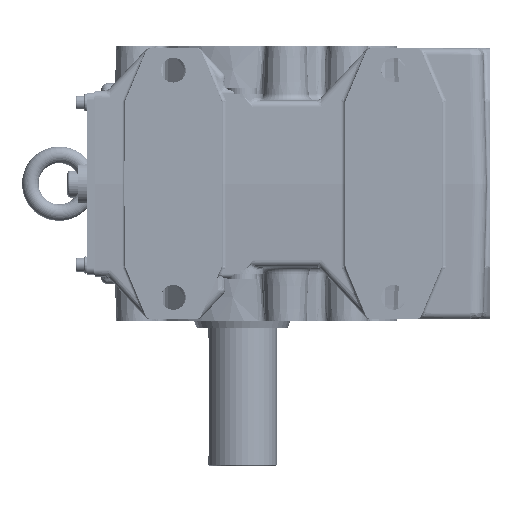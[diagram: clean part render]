
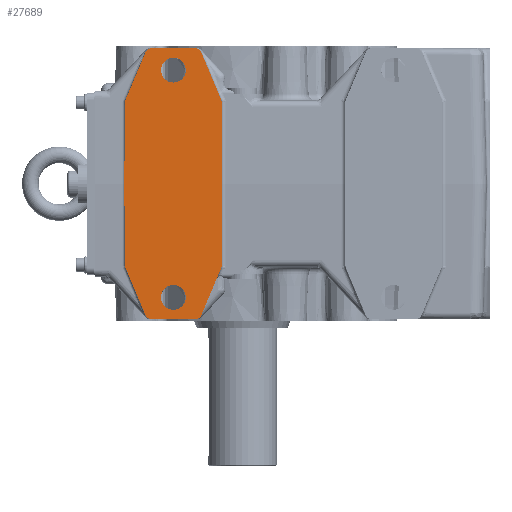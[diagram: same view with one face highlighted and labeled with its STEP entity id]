
A CAD part, left-side view. The second image highlights one B-rep face of the part: STEP entity #27689.
In plain terms, the highlighted planar face has unit normal (-1, 0, 0).
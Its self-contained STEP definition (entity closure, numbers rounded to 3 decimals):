
#27438=CARTESIAN_POINT('',(-112.,50.0,-73.5));
#27439=VERTEX_POINT('',#27438);
#27440=CARTESIAN_POINT('',(-112.,50.0,-82.5));
#27441=DIRECTION('',(1.0,0.0,0.0));
#27442=DIRECTION('',(0.0,0.0,1.0));
#27443=AXIS2_PLACEMENT_3D('',#27440,#27441,#27442);
#27444=CIRCLE('',#27443,9.0);
#27445=EDGE_CURVE('',#27439,#27439,#27444,.T.);
#27466=CARTESIAN_POINT('',(-112.,50.,91.5));
#27467=VERTEX_POINT('',#27466);
#27468=CARTESIAN_POINT('',(-112.,50.,82.5));
#27469=DIRECTION('',(1.0,0.0,0.0));
#27470=DIRECTION('',(0.0,0.0,1.0));
#27471=AXIS2_PLACEMENT_3D('',#27468,#27469,#27470);
#27472=CIRCLE('',#27471,9.0);
#27473=EDGE_CURVE('',#27467,#27467,#27472,.T.);
#27506=CARTESIAN_POINT('',(-112.,-29.479,11.268));
#27507=DIRECTION('',(1.0,0.0,0.0));
#27508=DIRECTION('',(0.0,0.0,-1.0));
#27509=AXIS2_PLACEMENT_3D('',#27506,#27507,#27508);
#27510=PLANE('',#27509);
#27511=CARTESIAN_POINT('',(-112.,85.011,-59.485));
#27512=VERTEX_POINT('',#27511);
#27513=CARTESIAN_POINT('',(-112.,86.064,0.));
#27514=VERTEX_POINT('',#27513);
#27515=CARTESIAN_POINT('',(-112.,87.0,-67.526));
#27516=DIRECTION('',(-1.0,0.0,0.0));
#27517=DIRECTION('',(0.0,0.0,1.0));
#27518=AXIS2_PLACEMENT_3D('',#27515,#27516,#27517);
#27519=ELLIPSE('',#27518,76.403,2.0);
#27520=EDGE_CURVE('',#27512,#27514,#27519,.T.);
#27521=ORIENTED_EDGE('',*,*,#27520,.F.);
#27522=CARTESIAN_POINT('',(-112.,84.614,-61.429));
#27523=VERTEX_POINT('',#27522);
#27524=CARTESIAN_POINT('',(-112.,84.614,-61.429));
#27525=CARTESIAN_POINT('',(-112.,84.744,-61.122));
#27526=CARTESIAN_POINT('',(-112.,84.843,-60.803));
#27527=CARTESIAN_POINT('',(-112.,84.909,-60.477));
#27528=CARTESIAN_POINT('',(-112.,84.976,-60.15));
#27529=CARTESIAN_POINT('',(-112.,85.01,-59.818));
#27530=CARTESIAN_POINT('',(-112.,85.011,-59.485));
#27531=B_SPLINE_CURVE_WITH_KNOTS('',3,(#27524,#27525,#27526,#27527,#27528,#27529,#27530),.UNSPECIFIED.,.F.,.U.,(4,3,4),(-0.2,-0.1,0.0),.UNSPECIFIED.);
#27532=EDGE_CURVE('',#27523,#27512,#27531,.T.);
#27533=ORIENTED_EDGE('',*,*,#27532,.F.);
#27534=CARTESIAN_POINT('',(-112.,82.368,-66.75));
#27535=VERTEX_POINT('',#27534);
#27536=CARTESIAN_POINT('',(-112.,84.212,-67.526));
#27537=DIRECTION('',(-1.0,0.0,0.0));
#27538=DIRECTION('',(0.0,0.388,0.922));
#27539=AXIS2_PLACEMENT_3D('',#27536,#27537,#27538);
#27540=ELLIPSE('',#27539,82.895,2.0);
#27541=EDGE_CURVE('',#27535,#27523,#27540,.T.);
#27542=ORIENTED_EDGE('',*,*,#27541,.F.);
#27543=CARTESIAN_POINT('',(-112.,70.288,-95.44));
#27544=VERTEX_POINT('',#27543);
#27545=CARTESIAN_POINT('',(-112.0,70.288,-95.44));
#27546=DIRECTION('',(0.0,0.388,0.922));
#27547=VECTOR('',#27546,31.13);
#27548=LINE('',#27545,#27547);
#27549=EDGE_CURVE('',#27544,#27535,#27548,.T.);
#27550=ORIENTED_EDGE('',*,*,#27549,.F.);
#27551=CARTESIAN_POINT('',(-112.,65.68,-98.5));
#27552=VERTEX_POINT('',#27551);
#27553=CARTESIAN_POINT('',(-112.,65.68,-93.5));
#27554=DIRECTION('',(1.0,0.0,0.0));
#27555=DIRECTION('',(0.0,0.0,-1.0));
#27556=AXIS2_PLACEMENT_3D('',#27553,#27554,#27555);
#27557=CIRCLE('',#27556,5.0);
#27558=EDGE_CURVE('',#27552,#27544,#27557,.T.);
#27559=ORIENTED_EDGE('',*,*,#27558,.F.);
#27560=CARTESIAN_POINT('',(-112.,34.32,-98.5));
#27561=VERTEX_POINT('',#27560);
#27562=CARTESIAN_POINT('',(-112.,34.32,-98.5));
#27563=DIRECTION('',(0.0,1.0,0.0));
#27564=VECTOR('',#27563,31.36);
#27565=LINE('',#27562,#27564);
#27566=EDGE_CURVE('',#27561,#27552,#27565,.T.);
#27567=ORIENTED_EDGE('',*,*,#27566,.F.);
#27568=CARTESIAN_POINT('',(-112.,29.712,-95.44));
#27569=VERTEX_POINT('',#27568);
#27570=CARTESIAN_POINT('',(-112.,34.32,-93.5));
#27571=DIRECTION('',(1.0,0.0,0.0));
#27572=DIRECTION('',(0.0,0.0,-1.0));
#27573=AXIS2_PLACEMENT_3D('',#27570,#27571,#27572);
#27574=CIRCLE('',#27573,5.0);
#27575=EDGE_CURVE('',#27569,#27561,#27574,.T.);
#27576=ORIENTED_EDGE('',*,*,#27575,.F.);
#27577=CARTESIAN_POINT('',(-112.,15.392,-61.431));
#27578=VERTEX_POINT('',#27577);
#27579=CARTESIAN_POINT('',(-112.,15.392,-61.431));
#27580=DIRECTION('',(0.0,0.388,-0.922));
#27581=VECTOR('',#27580,36.901);
#27582=LINE('',#27579,#27581);
#27583=EDGE_CURVE('',#27578,#27569,#27582,.T.);
#27584=ORIENTED_EDGE('',*,*,#27583,.F.);
#27585=CARTESIAN_POINT('',(-112.,15.0,-59.49));
#27586=VERTEX_POINT('',#27585);
#27587=CARTESIAN_POINT('',(-112.,20.0,-59.49));
#27588=DIRECTION('',(1.0,0.0,0.0));
#27589=DIRECTION('',(0.0,-0.98,-0.198));
#27590=AXIS2_PLACEMENT_3D('',#27587,#27588,#27589);
#27591=CIRCLE('',#27590,5.0);
#27592=EDGE_CURVE('',#27586,#27578,#27591,.T.);
#27593=ORIENTED_EDGE('',*,*,#27592,.F.);
#27594=CARTESIAN_POINT('',(-112.,15.0,59.49));
#27595=VERTEX_POINT('',#27594);
#27596=CARTESIAN_POINT('',(-112.,15.0,59.49));
#27597=DIRECTION('',(0.0,0.0,-1.0));
#27598=VECTOR('',#27597,118.981);
#27599=LINE('',#27596,#27598);
#27600=EDGE_CURVE('',#27595,#27586,#27599,.T.);
#27601=ORIENTED_EDGE('',*,*,#27600,.F.);
#27602=CARTESIAN_POINT('',(-112.,15.392,61.431));
#27603=VERTEX_POINT('',#27602);
#27604=CARTESIAN_POINT('',(-112.,20.0,59.49));
#27605=DIRECTION('',(1.0,0.0,0.0));
#27606=DIRECTION('',(0.0,-0.98,0.198));
#27607=AXIS2_PLACEMENT_3D('',#27604,#27605,#27606);
#27608=CIRCLE('',#27607,5.);
#27609=EDGE_CURVE('',#27603,#27595,#27608,.T.);
#27610=ORIENTED_EDGE('',*,*,#27609,.F.);
#27611=CARTESIAN_POINT('',(-112.,29.712,95.44));
#27612=VERTEX_POINT('',#27611);
#27613=CARTESIAN_POINT('',(-112.,29.712,95.44));
#27614=DIRECTION('',(0.0,-0.388,-0.922));
#27615=VECTOR('',#27614,36.901);
#27616=LINE('',#27613,#27615);
#27617=EDGE_CURVE('',#27612,#27603,#27616,.T.);
#27618=ORIENTED_EDGE('',*,*,#27617,.F.);
#27619=CARTESIAN_POINT('',(-112.,34.32,98.5));
#27620=VERTEX_POINT('',#27619);
#27621=CARTESIAN_POINT('',(-112.,34.32,93.5));
#27622=DIRECTION('',(1.0,0.0,0.0));
#27623=DIRECTION('',(0.0,0.0,1.0));
#27624=AXIS2_PLACEMENT_3D('',#27621,#27622,#27623);
#27625=CIRCLE('',#27624,5.0);
#27626=EDGE_CURVE('',#27620,#27612,#27625,.T.);
#27627=ORIENTED_EDGE('',*,*,#27626,.F.);
#27628=CARTESIAN_POINT('',(-112.,65.68,98.5));
#27629=VERTEX_POINT('',#27628);
#27630=CARTESIAN_POINT('',(-112.,65.68,98.5));
#27631=DIRECTION('',(0.0,-1.0,0.0));
#27632=VECTOR('',#27631,31.36);
#27633=LINE('',#27630,#27632);
#27634=EDGE_CURVE('',#27629,#27620,#27633,.T.);
#27635=ORIENTED_EDGE('',*,*,#27634,.F.);
#27636=CARTESIAN_POINT('',(-112.,70.288,95.44));
#27637=VERTEX_POINT('',#27636);
#27638=CARTESIAN_POINT('',(-112.,65.68,93.5));
#27639=DIRECTION('',(1.0,0.0,0.0));
#27640=DIRECTION('',(0.0,0.0,1.0));
#27641=AXIS2_PLACEMENT_3D('',#27638,#27639,#27640);
#27642=CIRCLE('',#27641,5.0);
#27643=EDGE_CURVE('',#27637,#27629,#27642,.T.);
#27644=ORIENTED_EDGE('',*,*,#27643,.F.);
#27645=CARTESIAN_POINT('',(-112.,82.368,66.75));
#27646=VERTEX_POINT('',#27645);
#27647=CARTESIAN_POINT('',(-112.0,82.368,66.75));
#27648=DIRECTION('',(0.0,-0.388,0.922));
#27649=VECTOR('',#27648,31.13);
#27650=LINE('',#27647,#27649);
#27651=EDGE_CURVE('',#27646,#27637,#27650,.T.);
#27652=ORIENTED_EDGE('',*,*,#27651,.F.);
#27653=CARTESIAN_POINT('',(-112.,84.614,61.429));
#27654=VERTEX_POINT('',#27653);
#27655=CARTESIAN_POINT('',(-112.,84.212,67.526));
#27656=DIRECTION('',(-1.0,0.0,0.0));
#27657=DIRECTION('',(0.0,0.388,-0.922));
#27658=AXIS2_PLACEMENT_3D('',#27655,#27656,#27657);
#27659=ELLIPSE('',#27658,82.895,2.0);
#27660=EDGE_CURVE('',#27654,#27646,#27659,.T.);
#27661=ORIENTED_EDGE('',*,*,#27660,.F.);
#27662=CARTESIAN_POINT('',(-112.,85.011,59.485));
#27663=VERTEX_POINT('',#27662);
#27664=CARTESIAN_POINT('',(-112.,85.011,59.485));
#27665=CARTESIAN_POINT('',(-112.,85.01,59.818));
#27666=CARTESIAN_POINT('',(-112.,84.976,60.151));
#27667=CARTESIAN_POINT('',(-112.,84.909,60.478));
#27668=CARTESIAN_POINT('',(-112.,84.842,60.804));
#27669=CARTESIAN_POINT('',(-112.,84.744,61.123));
#27670=CARTESIAN_POINT('',(-112.,84.614,61.429));
#27671=B_SPLINE_CURVE_WITH_KNOTS('',3,(#27664,#27665,#27666,#27667,#27668,#27669,#27670),.UNSPECIFIED.,.F.,.U.,(4,3,4),(-0.2,-0.1,0.0),.UNSPECIFIED.);
#27672=EDGE_CURVE('',#27663,#27654,#27671,.T.);
#27673=ORIENTED_EDGE('',*,*,#27672,.F.);
#27674=CARTESIAN_POINT('',(-112.,87.0,67.526));
#27675=DIRECTION('',(-1.0,0.0,0.0));
#27676=DIRECTION('',(0.0,0.0,-1.0));
#27677=AXIS2_PLACEMENT_3D('',#27674,#27675,#27676);
#27678=ELLIPSE('',#27677,76.403,2.0);
#27679=EDGE_CURVE('',#27514,#27663,#27678,.T.);
#27680=ORIENTED_EDGE('',*,*,#27679,.F.);
#27681=EDGE_LOOP('',(#27521,#27533,#27542,#27550,#27559,#27567,#27576,#27584,#27593,#27601,#27610,#27618,#27627,#27635,#27644,#27652,#27661,#27673,#27680));
#27682=FACE_OUTER_BOUND('',#27681,.T.);
#27683=ORIENTED_EDGE('',*,*,#27445,.T.);
#27684=EDGE_LOOP('',(#27683));
#27685=FACE_BOUND('',#27684,.T.);
#27686=ORIENTED_EDGE('',*,*,#27473,.T.);
#27687=EDGE_LOOP('',(#27686));
#27688=FACE_BOUND('',#27687,.T.);
#27689=ADVANCED_FACE('',(#27682,#27685,#27688),#27510,.F.);
